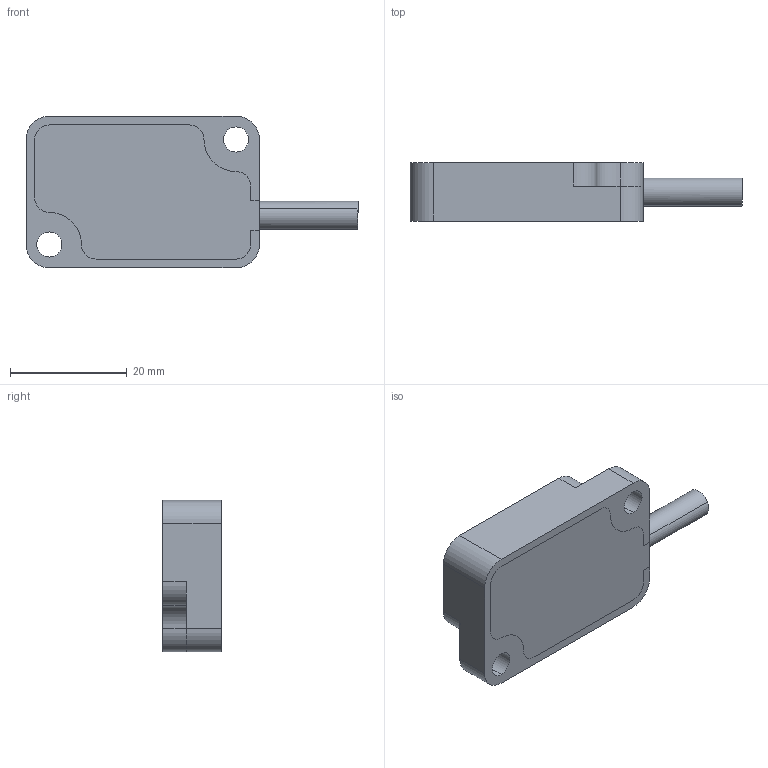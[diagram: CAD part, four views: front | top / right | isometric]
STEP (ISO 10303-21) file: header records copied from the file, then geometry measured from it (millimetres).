
FILE_DESCRIPTION (( 'STEP AP203' ), '1' );
FILE_NAME ('302086_GA6 10.STEP', '2026-09-15T13:54:02', ( '' ), ( '' ), 'SwSTEP 2.0', 'SolidWorks 2025', '' );
FILE_SCHEMA (( 'CONFIG_CONTROL_DESIGN' ));
Length unit declared in the file: millimetre
Products named in the file (1): 302086_GA6 10
Bounding box: 56.9 x 10 x 26 mm (x, y, z)
Volume: 9882.2 mm3; surface area: 3635.3 mm2
Topology: 1 solids, 1 shells, 27 faces, 87 edges, 62 vertices
Faces by surface type: cylinder 16, plane 11
Entity records: 1084 total; most frequent: DIRECTION 185, CARTESIAN_POINT 177, ORIENTED_EDGE 174, EDGE_CURVE 87, AXIS2_PLACEMENT_3D 70, VERTEX_POINT 62, LINE 45, VECTOR 45
